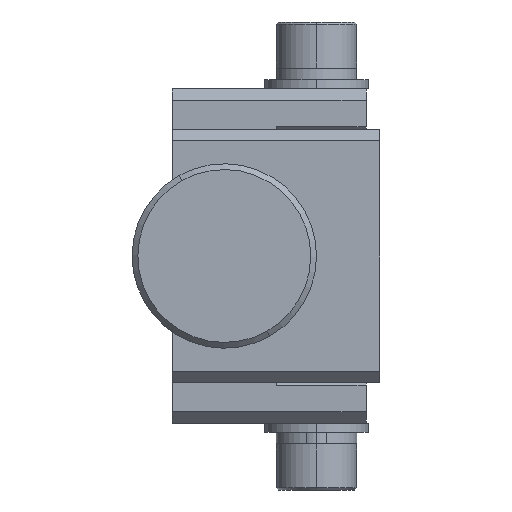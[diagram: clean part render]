
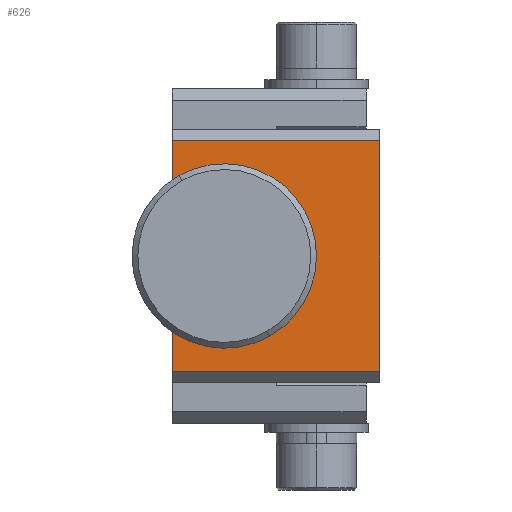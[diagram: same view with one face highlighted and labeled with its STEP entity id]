
A CAD part, left-side view. The second image highlights one B-rep face of the part: STEP entity #626.
In plain terms, the highlighted planar face has unit normal (-1, 0, 0).
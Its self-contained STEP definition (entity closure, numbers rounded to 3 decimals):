
#231 = VECTOR ( 'NONE', #2525, 1000. ) ;
#354 = CARTESIAN_POINT ( 'NONE',  ( -74., 13.5, -2.25 ) ) ;
#592 = VERTEX_POINT ( 'NONE', #2272 ) ;
#626 = ADVANCED_FACE ( 'NONE', ( #4048 ), #4189, .F. ) ;
#669 = CARTESIAN_POINT ( 'NONE',  ( -74., 18., -2.25 ) ) ;
#939 = VERTEX_POINT ( 'NONE', #7916 ) ;
#1221 = DIRECTION ( 'NONE',  ( 0., 0., -1. ) ) ;
#1280 = ORIENTED_EDGE ( 'NONE', *, *, #8238, .F. ) ;
#1451 = VECTOR ( 'NONE', #5483, 1000. ) ;
#1527 = EDGE_CURVE ( 'NONE', #592, #2903, #4220, .T. ) ;
#1668 = CARTESIAN_POINT ( 'NONE',  ( -74., 18., -2.25 ) ) ;
#1800 = AXIS2_PLACEMENT_3D ( 'NONE', #2724, #5350, #4695 ) ;
#1845 = CARTESIAN_POINT ( 'NONE',  ( -74., 0., 10. ) ) ;
#2213 = VECTOR ( 'NONE', #7946, 1000. ) ;
#2225 = CARTESIAN_POINT ( 'NONE',  ( -74., 13.5, 2.25 ) ) ;
#2272 = CARTESIAN_POINT ( 'NONE',  ( -74., 18., 10. ) ) ;
#2326 = LINE ( 'NONE', #4931, #6453 ) ;
#2342 = LINE ( 'NONE', #6113, #1451 ) ;
#2378 = ORIENTED_EDGE ( 'NONE', *, *, #8320, .F. ) ;
#2434 = ORIENTED_EDGE ( 'NONE', *, *, #3928, .F. ) ;
#2525 = DIRECTION ( 'NONE',  ( 0., 0., -1. ) ) ;
#2724 = CARTESIAN_POINT ( 'NONE',  ( -74., 13.5, 0. ) ) ;
#2803 = EDGE_CURVE ( 'NONE', #8082, #592, #2342, .T. ) ;
#2903 = VERTEX_POINT ( 'NONE', #6971 ) ;
#3512 = ORIENTED_EDGE ( 'NONE', *, *, #5269, .T. ) ;
#3610 = VERTEX_POINT ( 'NONE', #6762 ) ;
#3717 = VERTEX_POINT ( 'NONE', #2225 ) ;
#3928 = EDGE_CURVE ( 'NONE', #8082, #939, #5738, .T. ) ;
#4045 = ORIENTED_EDGE ( 'NONE', *, *, #1527, .T. ) ;
#4048 = FACE_OUTER_BOUND ( 'NONE', #6265, .T. ) ;
#4189 = PLANE ( 'NONE',  #5839 ) ;
#4220 = LINE ( 'NONE', #6839, #231 ) ;
#4310 = EDGE_CURVE ( 'NONE', #5074, #7465, #7774, .T. ) ;
#4394 = VECTOR ( 'NONE', #8369, 1000. ) ;
#4541 = ORIENTED_EDGE ( 'NONE', *, *, #4310, .F. ) ;
#4665 = ORIENTED_EDGE ( 'NONE', *, *, #7903, .T. ) ;
#4674 = ORIENTED_EDGE ( 'NONE', *, *, #2803, .T. ) ;
#4695 = DIRECTION ( 'NONE',  ( 0., 0., 1. ) ) ;
#4717 = CARTESIAN_POINT ( 'NONE',  ( -74., 18., -10. ) ) ;
#4931 = CARTESIAN_POINT ( 'NONE',  ( -74., 18., 2.25 ) ) ;
#5074 = VERTEX_POINT ( 'NONE', #1668 ) ;
#5269 = EDGE_CURVE ( 'NONE', #5074, #3610, #7761, .T. ) ;
#5350 = DIRECTION ( 'NONE',  ( -1., 0., 0. ) ) ;
#5483 = DIRECTION ( 'NONE',  ( 0., 1., 0. ) ) ;
#5511 = CIRCLE ( 'NONE', #1800, 2.25 ) ;
#5538 = DIRECTION ( 'NONE',  ( 1., 0., 0. ) ) ;
#5690 = CARTESIAN_POINT ( 'NONE',  ( -74., 0., 11. ) ) ;
#5738 = LINE ( 'NONE', #5690, #4394 ) ;
#5784 = VECTOR ( 'NONE', #1221, 1000. ) ;
#5839 = AXIS2_PLACEMENT_3D ( 'NONE', #6808, #5538, #7461 ) ;
#5902 = VECTOR ( 'NONE', #6556, 1000. ) ;
#6113 = CARTESIAN_POINT ( 'NONE',  ( -74., 18., 10. ) ) ;
#6265 = EDGE_LOOP ( 'NONE', ( #2434, #4674, #4045, #1280, #2378, #4541, #3512, #4665 ) ) ;
#6453 = VECTOR ( 'NONE', #7564, 1000. ) ;
#6556 = DIRECTION ( 'NONE',  ( 0., -1., 0. ) ) ;
#6762 = CARTESIAN_POINT ( 'NONE',  ( -74., 18., -10. ) ) ;
#6808 = CARTESIAN_POINT ( 'NONE',  ( -74., 18., 11. ) ) ;
#6839 = CARTESIAN_POINT ( 'NONE',  ( -74., 18., 11. ) ) ;
#6971 = CARTESIAN_POINT ( 'NONE',  ( -74., 18., 2.25 ) ) ;
#7106 = CARTESIAN_POINT ( 'NONE',  ( -74., 18., 11. ) ) ;
#7303 = LINE ( 'NONE', #4717, #2213 ) ;
#7461 = DIRECTION ( 'NONE',  ( 0., 0., -1. ) ) ;
#7465 = VERTEX_POINT ( 'NONE', #354 ) ;
#7564 = DIRECTION ( 'NONE',  ( 0., 1., 0. ) ) ;
#7761 = LINE ( 'NONE', #7106, #5784 ) ;
#7774 = LINE ( 'NONE', #669, #5902 ) ;
#7903 = EDGE_CURVE ( 'NONE', #3610, #939, #7303, .T. ) ;
#7916 = CARTESIAN_POINT ( 'NONE',  ( -74., 0., -10. ) ) ;
#7946 = DIRECTION ( 'NONE',  ( 0., -1., 0. ) ) ;
#8082 = VERTEX_POINT ( 'NONE', #1845 ) ;
#8238 = EDGE_CURVE ( 'NONE', #3717, #2903, #2326, .T. ) ;
#8320 = EDGE_CURVE ( 'NONE', #7465, #3717, #5511, .T. ) ;
#8369 = DIRECTION ( 'NONE',  ( 0., 0., -1. ) ) ;
